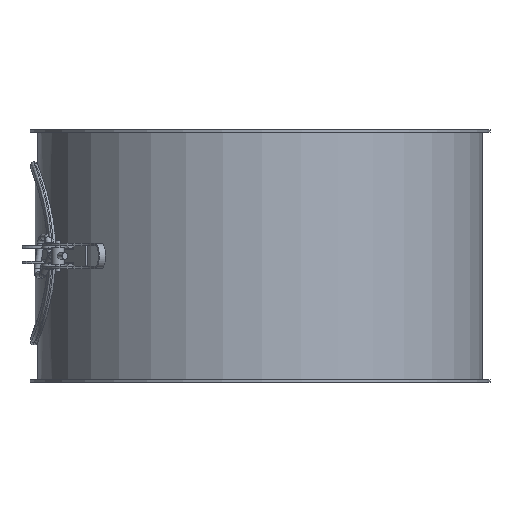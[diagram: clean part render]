
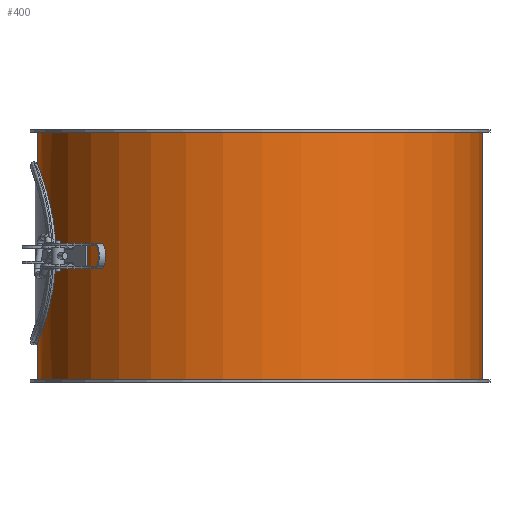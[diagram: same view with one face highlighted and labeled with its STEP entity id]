
A CAD part, front view. The second image highlights one B-rep face of the part: STEP entity #400.
In plain terms, the highlighted cylindrical face has radius 176 mm (diameter 352 mm), a full revolution.
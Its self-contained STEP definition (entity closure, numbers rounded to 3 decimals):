
#143=CARTESIAN_POINT('',(176.0,0.,198.0));
#144=VERTEX_POINT('',#143);
#145=CARTESIAN_POINT('',(0.0,0.0,198.0));
#146=DIRECTION('',(0.0,0.0,-1.0));
#147=DIRECTION('',(-1.0,0.0,0.0));
#148=AXIS2_PLACEMENT_3D('',#145,#146,#147);
#149=CIRCLE('',#148,176.0);
#150=EDGE_CURVE('',#144,#144,#149,.T.);
#191=CARTESIAN_POINT('',(-176.0,0.,2.0));
#192=VERTEX_POINT('',#191);
#193=CARTESIAN_POINT('',(0.0,0.0,2.0));
#194=DIRECTION('',(0.0,0.0,1.0));
#195=DIRECTION('',(-1.0,0.0,0.0));
#196=AXIS2_PLACEMENT_3D('',#193,#194,#195);
#197=CIRCLE('',#196,176.0);
#198=EDGE_CURVE('',#192,#192,#197,.T.);
#281=CARTESIAN_POINT('',(-166.342,-57.5,100.0));
#282=VERTEX_POINT('',#281);
#283=CARTESIAN_POINT('',(-166.342,-57.5,100.0));
#284=CARTESIAN_POINT('',(-166.342,-57.5,96.36));
#285=CARTESIAN_POINT('',(-166.465,-57.149,92.606));
#286=CARTESIAN_POINT('',(-166.962,-55.68,85.155));
#287=CARTESIAN_POINT('',(-167.336,-54.563,81.459));
#288=CARTESIAN_POINT('',(-168.266,-51.621,74.384));
#289=CARTESIAN_POINT('',(-168.823,-49.794,71.));
#290=CARTESIAN_POINT('',(-170.009,-45.582,64.748));
#291=CARTESIAN_POINT('',(-170.637,-43.197,61.88));
#292=CARTESIAN_POINT('',(-171.842,-38.122,56.804));
#293=CARTESIAN_POINT('',(-172.462,-35.254,54.419));
#294=CARTESIAN_POINT('',(-173.623,-29.001,50.207));
#295=CARTESIAN_POINT('',(-174.162,-25.616,48.379));
#296=CARTESIAN_POINT('',(-175.057,-18.54,45.436));
#297=CARTESIAN_POINT('',(-175.413,-14.843,44.319));
#298=CARTESIAN_POINT('',(-175.884,-7.392,42.851));
#299=CARTESIAN_POINT('',(-176.0,-3.638,42.5));
#300=CARTESIAN_POINT('',(-176.0,3.638,42.5));
#301=CARTESIAN_POINT('',(-175.884,7.392,42.851));
#302=CARTESIAN_POINT('',(-175.413,14.843,44.319));
#303=CARTESIAN_POINT('',(-175.057,18.54,45.436));
#304=CARTESIAN_POINT('',(-174.162,25.616,48.379));
#305=CARTESIAN_POINT('',(-173.623,29.001,50.207));
#306=CARTESIAN_POINT('',(-172.462,35.254,54.419));
#307=CARTESIAN_POINT('',(-171.842,38.122,56.804));
#308=CARTESIAN_POINT('',(-170.637,43.197,61.88));
#309=CARTESIAN_POINT('',(-170.009,45.582,64.748));
#310=CARTESIAN_POINT('',(-168.823,49.794,71.));
#311=CARTESIAN_POINT('',(-168.266,51.621,74.384));
#312=CARTESIAN_POINT('',(-167.336,54.563,81.459));
#313=CARTESIAN_POINT('',(-166.962,55.68,85.155));
#314=CARTESIAN_POINT('',(-166.465,57.149,92.606));
#315=CARTESIAN_POINT('',(-166.342,57.5,96.36));
#316=CARTESIAN_POINT('',(-166.342,57.5,103.64));
#317=CARTESIAN_POINT('',(-166.465,57.149,107.394));
#318=CARTESIAN_POINT('',(-166.962,55.68,114.845));
#319=CARTESIAN_POINT('',(-167.336,54.563,118.541));
#320=CARTESIAN_POINT('',(-168.266,51.621,125.616));
#321=CARTESIAN_POINT('',(-168.823,49.794,129.));
#322=CARTESIAN_POINT('',(-170.009,45.582,135.252));
#323=CARTESIAN_POINT('',(-170.637,43.197,138.12));
#324=CARTESIAN_POINT('',(-171.842,38.122,143.196));
#325=CARTESIAN_POINT('',(-172.462,35.254,145.581));
#326=CARTESIAN_POINT('',(-173.623,29.001,149.793));
#327=CARTESIAN_POINT('',(-174.162,25.616,151.621));
#328=CARTESIAN_POINT('',(-175.057,18.54,154.564));
#329=CARTESIAN_POINT('',(-175.413,14.843,155.681));
#330=CARTESIAN_POINT('',(-175.884,7.392,157.149));
#331=CARTESIAN_POINT('',(-176.0,3.638,157.5));
#332=CARTESIAN_POINT('',(-176.0,-3.638,157.5));
#333=CARTESIAN_POINT('',(-175.884,-7.392,157.149));
#334=CARTESIAN_POINT('',(-175.413,-14.843,155.681));
#335=CARTESIAN_POINT('',(-175.057,-18.54,154.564));
#336=CARTESIAN_POINT('',(-174.162,-25.616,151.621));
#337=CARTESIAN_POINT('',(-173.623,-29.001,149.793));
#338=CARTESIAN_POINT('',(-172.462,-35.254,145.581));
#339=CARTESIAN_POINT('',(-171.842,-38.122,143.196));
#340=CARTESIAN_POINT('',(-170.637,-43.197,138.12));
#341=CARTESIAN_POINT('',(-170.009,-45.582,135.252));
#342=CARTESIAN_POINT('',(-168.823,-49.794,129.));
#343=CARTESIAN_POINT('',(-168.266,-51.621,125.616));
#344=CARTESIAN_POINT('',(-167.336,-54.563,118.541));
#345=CARTESIAN_POINT('',(-166.962,-55.68,114.845));
#346=CARTESIAN_POINT('',(-166.465,-57.149,107.394));
#347=CARTESIAN_POINT('',(-166.342,-57.5,103.64));
#348=CARTESIAN_POINT('',(-166.342,-57.5,100.0));
#349=B_SPLINE_CURVE_WITH_KNOTS('',3,(#283,#284,#285,#286,#287,#288,#289,#290,#291,#292,#293,#294,#295,#296,#297,#298,#299,#300,#301,#302,#303,#304,#305,#306,#307,#308,#309,#310,#311,#312,#313,#314,#315,#316,#317,#318,#319,#320,#321,#322,#323,#324,#325,#326,#327,#328,#329,#330,#331,#332,#333,#334,#335,#336,#337,#338,#339,#340,#341,#342,#343,#344,#345,#346,#347,#348),.UNSPECIFIED.,.T.,.U.,(4,2,2,2,2,2,2,2,2,2,2,2,2,2,2,2,2,2,2,2,2,2,2,2,2,2,2,2,2,2,2,2,4),(0.0,1.092,2.184,3.276,4.368,5.459,6.551,7.642,8.734,9.825,10.916,12.008,13.099,14.191,15.283,16.375,17.467,18.559,19.651,20.743,21.835,22.926,24.018,25.109,26.201,27.292,28.383,29.475,30.566,31.658,32.75,33.842,34.934),.UNSPECIFIED.);
#350=EDGE_CURVE('',#282,#282,#349,.T.);
#386=CARTESIAN_POINT('',(0.0,0.0,0.0));
#387=DIRECTION('',(0.0,0.0,1.0));
#388=DIRECTION('',(-1.0,0.0,0.0));
#389=AXIS2_PLACEMENT_3D('',#386,#387,#388);
#390=CYLINDRICAL_SURFACE('',#389,176.0);
#391=ORIENTED_EDGE('',*,*,#150,.T.);
#392=EDGE_LOOP('',(#391));
#393=FACE_OUTER_BOUND('',#392,.T.);
#394=ORIENTED_EDGE('',*,*,#198,.T.);
#395=EDGE_LOOP('',(#394));
#396=FACE_BOUND('',#395,.T.);
#397=ORIENTED_EDGE('',*,*,#350,.T.);
#398=EDGE_LOOP('',(#397));
#399=FACE_BOUND('',#398,.T.);
#400=ADVANCED_FACE('',(#393,#396,#399),#390,.T.);
